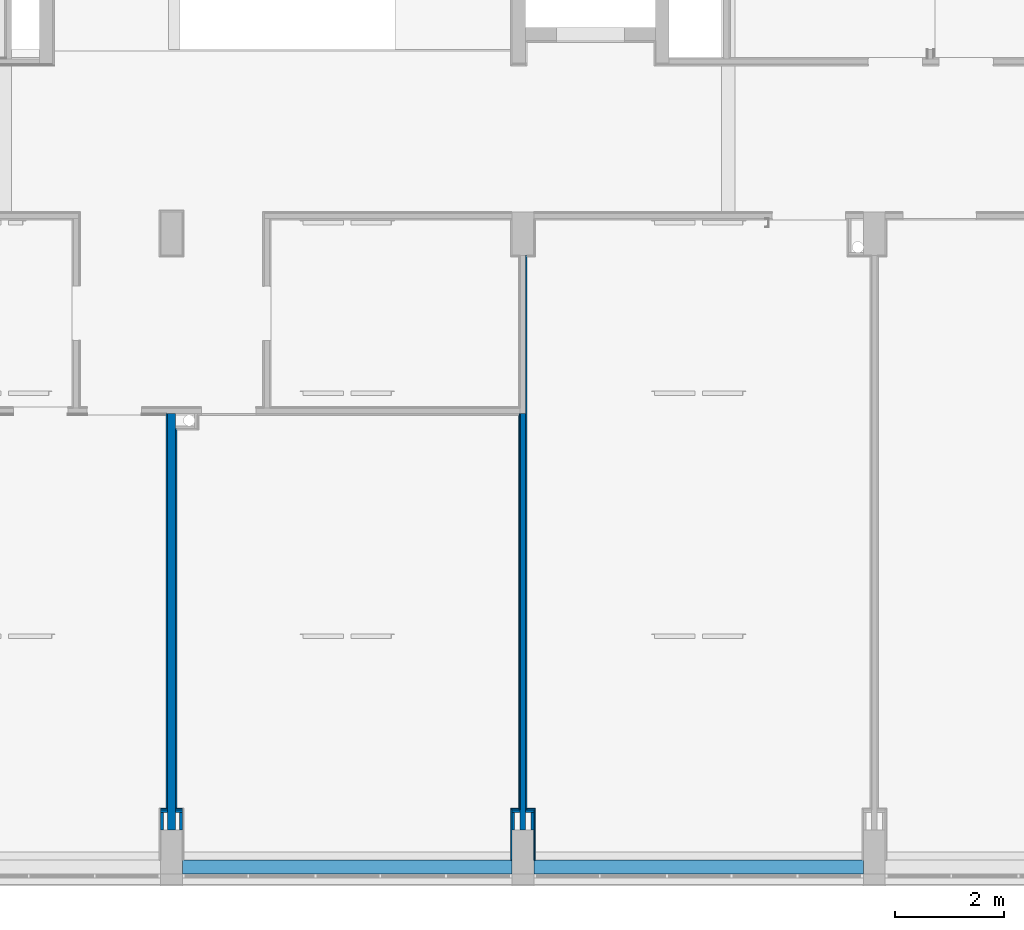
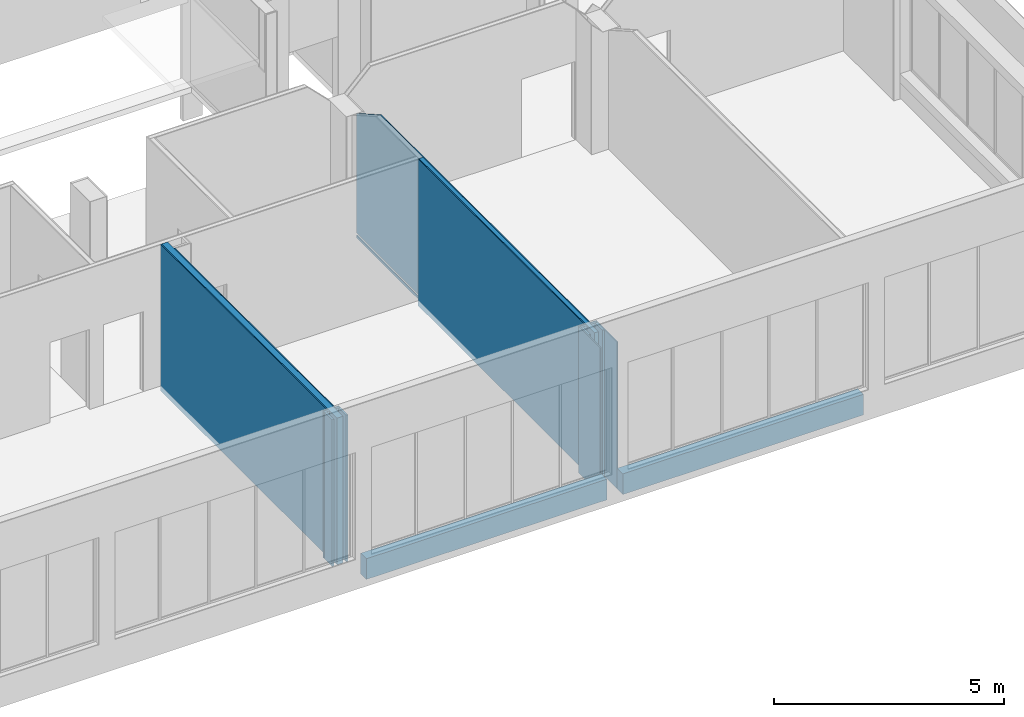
# One storey, part 20 of 29: 22 walls.
"""IFC2X3 building model written with IfcOpenShell, lengths in centimetres."""

from ifc_helpers import new_model, entity, si_unit, converted_unit, derived_unit, direction, frame, frame_2d, origin, place, context, subcontext, project, spatial, polyline, rectangle, extrude, clip, bounded_halfspace, material, layer, layer_set, layer_usage, type_object, element, save


model = new_model("IFC2X3")

# Units and contexts
model_context = context("Model", 3, precision=0.001, world=origin(), true_north=direction((6.12303176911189e-17, 1.0)))
body_context = subcontext(model_context, "Body", "Model", "MODEL_VIEW")
ifc_project = project(units=[si_unit("LENGTHUNIT", "METRE", prefix="CENTI"), si_unit("AREAUNIT", "SQUARE_METRE"), si_unit("VOLUMEUNIT", "CUBIC_METRE"), converted_unit("PLANEANGLEUNIT", "DEGREE", entity("IfcRatioMeasure", 0.0174532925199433), si_unit("PLANEANGLEUNIT", "RADIAN"), dimensions=[0, 0, 0, 0, 0, 0, 0]), si_unit("MASSUNIT", "GRAM", prefix="KILO"), derived_unit("MASSDENSITYUNIT", [(si_unit("MASSUNIT", "GRAM", prefix="KILO"), 1), (si_unit("LENGTHUNIT", "METRE"), -3)]), derived_unit("MOMENTOFINERTIAUNIT", [(si_unit("LENGTHUNIT", "METRE"), 4)]), si_unit("TIMEUNIT", "SECOND"), si_unit("FREQUENCYUNIT", "HERTZ"), si_unit("THERMODYNAMICTEMPERATUREUNIT", "DEGREE_CELSIUS"), derived_unit("THERMALTRANSMITTANCEUNIT", [(si_unit("MASSUNIT", "GRAM", prefix="KILO"), 1), (si_unit("THERMODYNAMICTEMPERATUREUNIT", "KELVIN"), -1), (si_unit("TIMEUNIT", "SECOND"), -3)]), derived_unit("VOLUMETRICFLOWRATEUNIT", [(si_unit("LENGTHUNIT", "METRE"), 3), (si_unit("TIMEUNIT", "SECOND"), -1)]), si_unit("ELECTRICCURRENTUNIT", "AMPERE"), si_unit("ELECTRICVOLTAGEUNIT", "VOLT"), si_unit("POWERUNIT", "WATT"), si_unit("FORCEUNIT", "NEWTON", prefix="KILO"), si_unit("ILLUMINANCEUNIT", "LUX"), si_unit("LUMINOUSFLUXUNIT", "LUMEN"), si_unit("LUMINOUSINTENSITYUNIT", "CANDELA"), derived_unit("USERDEFINED", [(si_unit("MASSUNIT", "GRAM", prefix="KILO"), -1), (si_unit("LENGTHUNIT", "METRE"), -2), (si_unit("TIMEUNIT", "SECOND"), 3), (si_unit("LUMINOUSFLUXUNIT", "LUMEN"), 1)]), derived_unit("LINEARVELOCITYUNIT", [(si_unit("LENGTHUNIT", "METRE"), 1), (si_unit("TIMEUNIT", "SECOND"), -1)]), si_unit("PRESSUREUNIT", "PASCAL"), derived_unit("USERDEFINED", [(si_unit("LENGTHUNIT", "METRE"), -2), (si_unit("MASSUNIT", "GRAM", prefix="KILO"), 1), (si_unit("TIMEUNIT", "SECOND"), -2)]), derived_unit("LINEARFORCEUNIT", [(si_unit("MASSUNIT", "GRAM", prefix="KILO"), 1), (si_unit("LENGTHUNIT", "METRE"), 1), (si_unit("TIMEUNIT", "SECOND"), -2), (si_unit("LENGTHUNIT", "METRE"), -1)]), derived_unit("PLANARFORCEUNIT", [(si_unit("MASSUNIT", "GRAM", prefix="KILO"), 1), (si_unit("LENGTHUNIT", "METRE"), 1), (si_unit("TIMEUNIT", "SECOND"), -2), (si_unit("LENGTHUNIT", "METRE"), -2)])], contexts=[model_context])

# Site, building, storey
site_placement = place(None, origin())
site = spatial("IfcSite", under=ifc_project, at=site_placement, Name="Default", CompositionType="ELEMENT")
building_placement = place(site_placement, origin())
building = spatial("IfcBuilding", under=site, at=building_placement, CompositionType="ELEMENT")
storey_placement = place(building_placement, frame((0.0, 0.0, 545.0)))
storey = spatial("IfcBuildingStorey", under=building, at=storey_placement, Name="Poziom 1K +5,45", CompositionType="ELEMENT", Elevation=544.999999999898)

# Walls
ifc_material_1 = material(Name="Pustak ceramiczny, klasa 15")
ifc_layer_1 = layer(ifc_material_1, 25.0)
ifc_layer_set_1 = layer_set([ifc_layer_1], Name="Ściana podstawowa:Ściana murowana gr. 25cm")
ifc_layer_usage_1 = layer_usage(ifc_layer_set_1, "AXIS2", "POSITIVE", -12.5)
wall_type_1 = type_object("IfcWallType", Name="Ściana podstawowa:Ściana murowana gr. 25cm", PredefinedType="STANDARD", material=ifc_layer_set_1)
wall_1_placement = place(storey_placement, frame((-959.265106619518, 267.62765760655, 0.0)))
element("IfcWallStandardCase", 1, at=wall_1_placement, inside=storey, type_object=wall_type_1, material=ifc_layer_usage_1, Name="Ściana podstawowa:Ściana murowana gr. 25cm", ObjectType="Ściana podstawowa:Ściana murowana gr. 25cm", context=body_context, shape_type="SweptSolid", body=[
    extrude(rectangle(XDim=604.999999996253, YDim=24.9999999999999, at=frame_2d((302.499999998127, 0.0), x_axis=(-1.0, 0.0))), origin(), (0.0, 0.0, 1.0), 55.0000000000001),
])
ifc_layer_usage_2 = layer_usage(ifc_layer_set_1, "AXIS2", "POSITIVE", -12.5)
wall_2_placement = place(storey_placement, frame((-314.265106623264, 267.62765760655, 0.0)))
element("IfcWallStandardCase", 2, at=wall_2_placement, inside=storey, type_object=wall_type_1, material=ifc_layer_usage_2, Name="Ściana podstawowa:Ściana murowana gr. 25cm", ObjectType="Ściana podstawowa:Ściana murowana gr. 25cm", context=body_context, shape_type="SweptSolid", body=[
    extrude(rectangle(XDim=605.000000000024, YDim=24.9999999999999, at=frame_2d((302.500000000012, 0.0), x_axis=(-1.0, 0.0))), origin(), (0.0, 0.0, 1.0), 55.0000000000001),
])
ifc_material_2 = material(Name="Wełna skalna")
ifc_layer_2 = layer(ifc_material_2, 10.0)
ifc_layer_set_2 = layer_set([ifc_layer_2], Name="Ściana podstawowa:Ściana GK rdzeń gr. 10cm")
ifc_layer_usage_3 = layer_usage(ifc_layer_set_2, "AXIS2", "POSITIVE", -5.0)
wall_type_2 = type_object("IfcWallType", Name="Ściana podstawowa:Ściana GK rdzeń gr. 10cm", PredefinedType="STANDARD", material=ifc_layer_set_2)
wall_3_placement = place(storey_placement, frame((-334.26512061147, 1099.62745219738, 0.0), z_axis=(0.0, 0.0, 1.0), x_axis=(0.0, -1.0, 0.0)))
element("IfcWallStandardCase", 3, at=wall_3_placement, inside=storey, type_object=wall_type_2, material=ifc_layer_usage_3, Name="Ściana podstawowa:Ściana GK rdzeń gr. 10cm", ObjectType="Ściana podstawowa:Ściana GK rdzeń gr. 10cm", context=body_context, shape_type="SweptSolid", body=[
    extrude(rectangle(XDim=764.499794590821, YDim=10.0, at=frame_2d((382.249897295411, 2.22044604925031e-15), x_axis=(-1.0, 0.0))), origin(), (0.0, 0.0, 1.0), 390.000000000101),
])
ifc_layer_3 = layer(ifc_material_2, 15.0)
ifc_layer_set_3 = layer_set([ifc_layer_3], Name="Ściana podstawowa:Ściana GK rdzeń gr. 15cm")
ifc_layer_usage_4 = layer_usage(ifc_layer_set_3, "AXIS2", "POSITIVE", -7.5)
wall_type_3 = type_object("IfcWallType", Name="Ściana podstawowa:Ściana GK rdzeń gr. 15cm", PredefinedType="STANDARD", material=ifc_layer_set_3)
wall_4_placement = place(storey_placement, frame((-979.265108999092, 1099.62745219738, 0.0), z_axis=(0.0, 0.0, 1.0), x_axis=(0.0, -1.0, 0.0)))
element("IfcWallStandardCase", 4, at=wall_4_placement, inside=storey, type_object=wall_type_3, material=ifc_layer_usage_4, Name="Ściana podstawowa:Ściana GK rdzeń gr. 15cm", ObjectType="Ściana podstawowa:Ściana GK rdzeń gr. 15cm", context=body_context, shape_type="SweptSolid", body=[
    extrude(rectangle(XDim=764.499794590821, YDim=15.0000000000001, at=frame_2d((382.249897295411, 0.0), x_axis=(-1.0, 0.0))), origin(), (0.0, 0.0, 1.0), 390.000000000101),
])
ifc_layer_4 = layer(ifc_material_2, 5.0)
ifc_layer_set_4 = layer_set([ifc_layer_4], Name="Ściana podstawowa:Ściana GK rdzeń gr. 5cm")
ifc_layer_usage_5 = layer_usage(ifc_layer_set_4, "AXIS2", "NEGATIVE", 2.5)
wall_type_4 = type_object("IfcWallType", Name="Ściana podstawowa:Ściana GK rdzeń gr. 5cm", PredefinedType="STANDARD", material=ifc_layer_set_4)
wall_5_placement = place(storey_placement, frame((-329.265120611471, 370.127452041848, 0.0)))
element("IfcWallStandardCase", 5, at=wall_5_placement, inside=storey, type_object=wall_type_4, material=ifc_layer_usage_5, Name="Ściana podstawowa:Ściana GK rdzeń gr. 5cm", ObjectType="Ściana podstawowa:Ściana GK rdzeń gr. 5cm", context=body_context, shape_type="SweptSolid", body=[
    extrude(rectangle(XDim=15.0000139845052, YDim=4.99999999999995, at=frame_2d((7.50000699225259, 5.55111512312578e-15), x_axis=(-1.0, 0.0))), origin(), (0.0, 0.0, 1.0), 390.000000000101),
])
ifc_layer_usage_6 = layer_usage(ifc_layer_set_4, "AXIS2", "NEGATIVE", 2.5)
wall_6_placement = place(storey_placement, frame((-316.765106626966, 367.627452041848, 0.0), z_axis=(0.0, 0.0, 1.0), x_axis=(0.0, -1.0, 0.0)))
element("IfcWallStandardCase", 6, at=wall_6_placement, inside=storey, type_object=wall_type_4, material=ifc_layer_usage_6, Name="Ściana podstawowa:Ściana GK rdzeń gr. 5cm", ObjectType="Ściana podstawowa:Ściana GK rdzeń gr. 5cm", context=body_context, shape_type="SweptSolid", body=[
    extrude(rectangle(XDim=32.4997944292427, YDim=4.99999999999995, at=frame_2d((16.2498972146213, 0.0), x_axis=(-1.0, 0.0))), origin(), (0.0, 0.0, 1.0), 390.000000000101),
])
ifc_layer_usage_7 = layer_usage(ifc_layer_set_4, "AXIS2", "NEGATIVE", 2.5)
wall_7_placement = place(storey_placement, frame((-351.765120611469, 367.627452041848, 0.0), z_axis=(0.0, 0.0, 1.0), x_axis=(0.0, -1.0, 0.0)))
element("IfcWallStandardCase", 7, at=wall_7_placement, inside=storey, type_object=wall_type_4, material=ifc_layer_usage_7, Name="Ściana podstawowa:Ściana GK rdzeń gr. 5cm", ObjectType="Ściana podstawowa:Ściana GK rdzeń gr. 5cm", context=body_context, shape_type="SweptSolid", body=[
    extrude(rectangle(XDim=32.4997944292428, YDim=4.99999999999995, at=frame_2d((16.2498972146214, 0.0), x_axis=(-1.0, 0.0))), origin(), (0.0, 0.0, 1.0), 390.000000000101),
])
ifc_layer_usage_8 = layer_usage(ifc_layer_set_4, "AXIS2", "NEGATIVE", 2.5)
wall_8_placement = place(storey_placement, frame((-339.265120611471, 370.127452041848, 0.0), z_axis=(0.0, 0.0, 1.0), x_axis=(-1.0, 0.0, 0.0)))
element("IfcWallStandardCase", 8, at=wall_8_placement, inside=storey, type_object=wall_type_4, material=ifc_layer_usage_8, Name="Ściana podstawowa:Ściana GK rdzeń gr. 5cm", ObjectType="Ściana podstawowa:Ściana GK rdzeń gr. 5cm", context=body_context, shape_type="SweptSolid", body=[
    extrude(rectangle(XDim=14.9999860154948, YDim=4.99999999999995, at=frame_2d((7.49999300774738, 5.55111512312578e-15), x_axis=(-1.0, 0.0))), origin(), (0.0, 0.0, 1.0), 390.000000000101),
])
ifc_layer_usage_9 = layer_usage(ifc_layer_set_4, "AXIS2", "NEGATIVE", 2.5)
wall_9_placement = place(storey_placement, frame((-971.765108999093, 370.127452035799, 0.0)))
element("IfcWallStandardCase", 9, at=wall_9_placement, inside=storey, type_object=wall_type_4, material=ifc_layer_usage_9, Name="Ściana podstawowa:Ściana GK rdzeń gr. 5cm", ObjectType="Ściana podstawowa:Ściana GK rdzeń gr. 5cm", context=body_context, shape_type="SweptSolid", body=[
    extrude(rectangle(XDim=12.5000163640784, YDim=5.00000000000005, at=frame_2d((6.25000818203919, 0.0), x_axis=(-1.0, 0.0))), origin(), (0.0, 0.0, 1.0), 390.000000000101),
])
ifc_layer_usage_10 = layer_usage(ifc_layer_set_4, "AXIS2", "NEGATIVE", 2.5)
wall_10_placement = place(storey_placement, frame((-961.765092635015, 367.627452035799, 0.0), z_axis=(0.0, 0.0, 1.0), x_axis=(0.0, -1.0, 0.0)))
element("IfcWallStandardCase", 10, at=wall_10_placement, inside=storey, type_object=wall_type_4, material=ifc_layer_usage_10, Name="Ściana podstawowa:Ściana GK rdzeń gr. 5cm", ObjectType="Ściana podstawowa:Ściana GK rdzeń gr. 5cm", context=body_context, shape_type="SweptSolid", body=[
    extrude(rectangle(XDim=32.4997944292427, YDim=4.99999999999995, at=frame_2d((16.2498972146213, -2.70894418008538e-14), x_axis=(-1.0, 0.0))), origin(), (0.0, 0.0, 1.0), 390.000000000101),
])
ifc_layer_usage_11 = layer_usage(ifc_layer_set_4, "AXIS2", "NEGATIVE", 2.5)
wall_11_placement = place(storey_placement, frame((-996.765106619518, 367.627452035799, 0.0), z_axis=(0.0, 0.0, 1.0), x_axis=(0.0, -1.0, 0.0)))
element("IfcWallStandardCase", 11, at=wall_11_placement, inside=storey, type_object=wall_type_4, material=ifc_layer_usage_11, Name="Ściana podstawowa:Ściana GK rdzeń gr. 5cm", ObjectType="Ściana podstawowa:Ściana GK rdzeń gr. 5cm", context=body_context, shape_type="SweptSolid", body=[
    extrude(rectangle(XDim=32.4997944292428, YDim=5.00000000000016, at=frame_2d((16.2498972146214, 2.70894418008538e-14), x_axis=(-1.0, 0.0))), origin(), (0.0, 0.0, 1.0), 390.000000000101),
])
ifc_layer_usage_12 = layer_usage(ifc_layer_set_4, "AXIS2", "NEGATIVE", 2.5)
wall_12_placement = place(storey_placement, frame((-986.765108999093, 370.127452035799, 0.0), z_axis=(0.0, 0.0, 1.0), x_axis=(-1.0, 0.0, 0.0)))
element("IfcWallStandardCase", 12, at=wall_12_placement, inside=storey, type_object=wall_type_4, material=ifc_layer_usage_12, Name="Ściana podstawowa:Ściana GK rdzeń gr. 5cm", ObjectType="Ściana podstawowa:Ściana GK rdzeń gr. 5cm", context=body_context, shape_type="SweptSolid", body=[
    extrude(rectangle(XDim=12.4999836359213, YDim=5.00000000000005, at=frame_2d((6.24999181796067, 0.0), x_axis=(-1.0, 0.0))), origin(), (0.0, 0.0, 1.0), 390.000000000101),
])
ifc_material_3 = material(Name="Tynk gipsowy")
ifc_layer_5 = layer(ifc_material_3, 2.5)
ifc_layer_set_5 = layer_set([ifc_layer_5], Name="Ściana podstawowa:Ściana GK wykonczenie gr. 2,5cm")
ifc_layer_usage_13 = layer_usage(ifc_layer_set_5, "AXIS2", "NEGATIVE", 1.25)
wall_type_5 = type_object("IfcWallType", Name="Ściana podstawowa:Ściana GK wykonczenie gr. 2,5cm", PredefinedType="STANDARD", material=ifc_layer_set_5)
wall_13_placement = place(storey_placement, frame((-988.015108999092, 1099.62745216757, 0.0), z_axis=(0.0, 0.0, 1.0), x_axis=(0.0, -1.0, 0.0)))
element("IfcWallStandardCase", 13, at=wall_13_placement, inside=storey, type_object=wall_type_5, material=ifc_layer_usage_13, Name="Ściana podstawowa:Ściana GK wykonczenie gr. 2,5cm", ObjectType="Ściana podstawowa:Ściana GK wykonczenie gr. 2,5cm", context=body_context, shape_type="SweptSolid", body=[
    extrude(rectangle(XDim=724.500000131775, YDim=2.49999999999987, at=frame_2d((362.250000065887, -1.88737914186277e-15), x_axis=(-1.0, 0.0))), origin(), (0.0, 0.0, 1.0), 390.000000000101),
])
ifc_layer_usage_14 = layer_usage(ifc_layer_set_5, "AXIS2", "NEGATIVE", 1.25)
wall_14_placement = place(storey_placement, frame((-986.765108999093, 373.877452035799, 0.0), z_axis=(0.0, 0.0, 1.0), x_axis=(-1.0, 0.0, 0.0)))
element("IfcWallStandardCase", 14, at=wall_14_placement, inside=storey, type_object=wall_type_5, material=ifc_layer_usage_14, Name="Ściana podstawowa:Ściana GK wykonczenie gr. 2,5cm", ObjectType="Ściana podstawowa:Ściana GK wykonczenie gr. 2,5cm", context=body_context, shape_type="SweptSolid", body=[
    extrude(rectangle(XDim=12.4999836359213, YDim=2.49999999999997, at=frame_2d((6.24999181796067, 0.0), x_axis=(-1.0, 0.0))), origin(), (0.0, 0.0, 1.0), 390.000000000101),
])
ifc_layer_usage_15 = layer_usage(ifc_layer_set_5, "AXIS2", "NEGATIVE", 1.25)
wall_15_placement = place(storey_placement, frame((-328.015119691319, 1390.12745208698, 0.0), z_axis=(0.0, 0.0, 1.0), x_axis=(0.0, -1.0, 0.0)))
element("IfcWallStandardCase", 15, at=wall_15_placement, inside=storey, type_object=wall_type_5, material=ifc_layer_usage_15, Name="Ściana podstawowa:Ściana GK wykonczenie gr. 2,5cm", ObjectType="Ściana podstawowa:Ściana GK wykonczenie gr. 2,5cm", context=body_context, shape_type="Clipping", body=[
    clip(clip(extrude(rectangle(XDim=1017.50000004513, YDim=2.49999999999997, at=frame_2d((508.750000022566, 0.0), x_axis=(-1.0, 0.0))), origin(), (0.0, 0.0, 1.0), 390.000000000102), bounded_halfspace(frame((0.0, -1.24999999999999, 330.0), z_axis=(0.496138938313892, 0.0, -0.868243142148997), x_axis=(0.0, 1.0, 0.0)), True, frame((0.0, -1.24999999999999, 330.0), z_axis=(0.496138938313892, 0.0, -0.868243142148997), x_axis=(0.0, 1.0, 0.0)), polyline([(0.0, 0.0), (2.49999999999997, 0.0), (2.49999999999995, 120.933866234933), (0.0, 120.933866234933), (0.0, 0.0)]))), bounded_halfspace(frame((293.0, 1.24999907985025, 7.0), z_axis=(1.0, 0.0, 0.0), x_axis=(0.0, 0.0, 1.0)), True, frame((293.0, 1.24999907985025, 7.0), z_axis=(1.0, 0.0, 0.0), x_axis=(0.0, 0.0, 1.0)), polyline([(0.0, 0.0), (6.0, 0.0), (6.0, 2.49999907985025), (0.0, 2.49999907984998), (0.0, 0.0)]))),
])
ifc_layer_usage_16 = layer_usage(ifc_layer_set_5, "AXIS2", "NEGATIVE", 1.25)
wall_16_placement = place(storey_placement, frame((-326.765119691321, 373.877452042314, 0.0)))
element("IfcWallStandardCase", 16, at=wall_16_placement, inside=storey, type_object=wall_type_5, material=ifc_layer_usage_16, Name="Ściana podstawowa:Ściana GK wykonczenie gr. 2,5cm", ObjectType="Ściana podstawowa:Ściana GK wykonczenie gr. 2,5cm", context=body_context, shape_type="SweptSolid", body=[
    extrude(rectangle(XDim=15.0000139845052, YDim=2.49999999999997, at=frame_2d((7.50000699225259, 0.0), x_axis=(-1.0, 0.0))), origin(), (0.0, 0.0, 1.0), 390.000000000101),
])
ifc_layer_usage_17 = layer_usage(ifc_layer_set_5, "AXIS2", "NEGATIVE", 1.25)
wall_17_placement = place(storey_placement, frame((-313.015120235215, 372.627452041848, 0.0), z_axis=(0.0, 0.0, 1.0), x_axis=(0.0, -1.0, 0.0)))
element("IfcWallStandardCase", 17, at=wall_17_placement, inside=storey, type_object=wall_type_5, material=ifc_layer_usage_17, Name="Ściana podstawowa:Ściana GK wykonczenie gr. 2,5cm", ObjectType="Ściana podstawowa:Ściana GK wykonczenie gr. 2,5cm", context=body_context, shape_type="SweptSolid", body=[
    extrude(rectangle(XDim=92.499794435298, YDim=2.49999999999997, at=frame_2d((46.249897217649, 0.0), x_axis=(-1.0, 0.0))), origin(), (0.0, 0.0, 1.0), 390.000000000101),
])
ifc_layer_usage_18 = layer_usage(ifc_layer_set_5, "AXIS2", "NEGATIVE", 1.25)
wall_18_placement = place(storey_placement, frame((-355.515120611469, 280.127657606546, 0.0), z_axis=(0.0, 0.0, 1.0), x_axis=(0.0, 1.0, 0.0)))
element("IfcWallStandardCase", 18, at=wall_18_placement, inside=storey, type_object=wall_type_5, material=ifc_layer_usage_18, Name="Ściana podstawowa:Ściana GK wykonczenie gr. 2,5cm", ObjectType="Ściana podstawowa:Ściana GK wykonczenie gr. 2,5cm", context=body_context, shape_type="SweptSolid", body=[
    extrude(rectangle(XDim=94.9997944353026, YDim=2.49999999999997, at=frame_2d((47.4998972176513, 0.0), x_axis=(-1.0, 0.0))), origin(), (0.0, 0.0, 1.0), 390.000000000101),
])
ifc_layer_usage_19 = layer_usage(ifc_layer_set_5, "AXIS2", "NEGATIVE", 1.25)
wall_19_placement = place(storey_placement, frame((-354.265120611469, 373.877452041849, 0.0)))
element("IfcWallStandardCase", 19, at=wall_19_placement, inside=storey, type_object=wall_type_5, material=ifc_layer_usage_19, Name="Ściana podstawowa:Ściana GK wykonczenie gr. 2,5cm", ObjectType="Ściana podstawowa:Ściana GK wykonczenie gr. 2,5cm", context=body_context, shape_type="SweptSolid", body=[
    extrude(rectangle(XDim=12.5, YDim=2.49999999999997, at=frame_2d((6.24999999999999, -4.55191440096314e-15), x_axis=(-1.0, 0.0))), origin(), (0.0, 0.0, 1.0), 390.000000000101),
])
ifc_layer_usage_20 = layer_usage(ifc_layer_set_5, "AXIS2", "NEGATIVE", 1.25)
wall_20_placement = place(storey_placement, frame((-340.515120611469, 372.627452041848, 0.0), z_axis=(0.0, 0.0, 1.0), x_axis=(0.0, 1.0, 0.0)))
element("IfcWallStandardCase", 20, at=wall_20_placement, inside=storey, type_object=wall_type_5, material=ifc_layer_usage_20, Name="Ściana podstawowa:Ściana GK wykonczenie gr. 2,5cm", ObjectType="Ściana podstawowa:Ściana GK wykonczenie gr. 2,5cm", context=body_context, shape_type="SweptSolid", body=[
    extrude(rectangle(XDim=727.000000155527, YDim=2.49999999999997, at=frame_2d((363.500000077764, 4.10782519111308e-15), x_axis=(-1.0, 0.0))), origin(), (0.0, 0.0, 1.0), 390.000000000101),
])
ifc_layer_usage_21 = layer_usage(ifc_layer_set_5, "AXIS2", "NEGATIVE", 1.25)
wall_21_placement = place(storey_placement, frame((-970.515120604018, 1072.12745218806, 0.0), z_axis=(0.0, 0.0, 1.0), x_axis=(0.0, -1.0, 0.0)))
element("IfcWallStandardCase", 21, at=wall_21_placement, inside=storey, type_object=wall_type_5, material=ifc_layer_usage_21, Name="Ściana podstawowa:Ściana GK wykonczenie gr. 2,5cm", ObjectType="Ściana podstawowa:Ściana GK wykonczenie gr. 2,5cm", context=body_context, shape_type="SweptSolid", body=[
    extrude(rectangle(XDim=697.000000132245, YDim=2.50000000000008, at=frame_2d((348.500000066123, 0.0), x_axis=(-1.0, 0.0))), origin(), (0.0, 0.0, 1.0), 390.000000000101),
])
ifc_layer_usage_22 = layer_usage(ifc_layer_set_5, "AXIS2", "NEGATIVE", 1.25)
wall_22_placement = place(storey_placement, frame((-971.765108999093, 373.877452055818, 0.0)))
element("IfcWallStandardCase", 22, at=wall_22_placement, inside=storey, type_object=wall_type_5, material=ifc_layer_usage_22, Name="Ściana podstawowa:Ściana GK wykonczenie gr. 2,5cm", ObjectType="Ściana podstawowa:Ściana GK wykonczenie gr. 2,5cm", context=body_context, shape_type="SweptSolid", body=[
    extrude(rectangle(XDim=12.5000003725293, YDim=2.49999999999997, at=frame_2d((6.25000018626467, 0.0), x_axis=(-1.0, 0.0))), origin(), (0.0, 0.0, 1.0), 390.000000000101),
])

save(model, "model.ifc")
